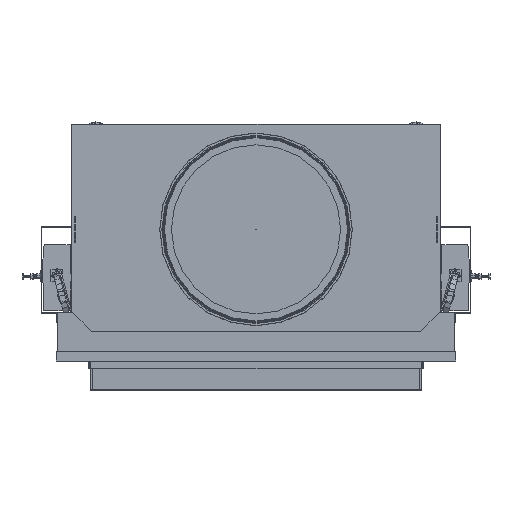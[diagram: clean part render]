
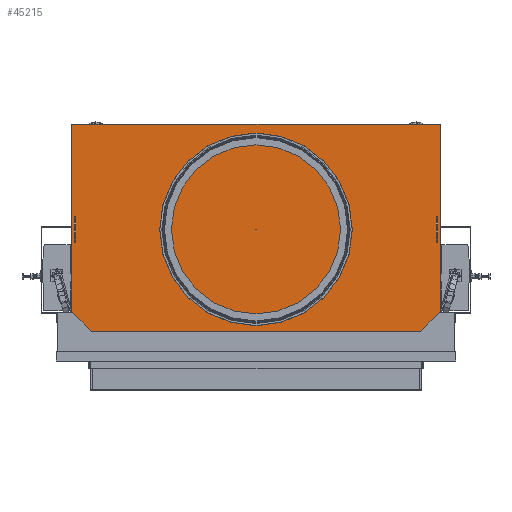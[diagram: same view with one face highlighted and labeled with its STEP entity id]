
A CAD part, top view. The second image highlights one B-rep face of the part: STEP entity #45215.
In plain terms, the highlighted planar face has unit normal (0, 0, 1).
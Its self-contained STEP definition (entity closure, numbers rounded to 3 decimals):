
#45215 = ADVANCED_FACE('',(#45216),#45230,.T.);
#45216 = FACE_BOUND('',#45217,.T.);
#45217 = EDGE_LOOP('',(#45218,#45253,#45281,#45309,#45337,#45365));
#45218 = ORIENTED_EDGE('',*,*,#45219,.T.);
#45219 = EDGE_CURVE('',#45220,#45222,#45224,.T.);
#45220 = VERTEX_POINT('',#45221);
#45221 = CARTESIAN_POINT('',(3633.291,8779.701,
    1110.));
#45222 = VERTEX_POINT('',#45223);
#45223 = CARTESIAN_POINT('',(3633.278,9177.701,
    1110.));
#45224 = SURFACE_CURVE('',#45225,(#45229,#45241),.PCURVE_S1.);
#45225 = LINE('',#45226,#45227);
#45226 = CARTESIAN_POINT('',(3633.291,8779.701,
    1110.));
#45227 = VECTOR('',#45228,1.);
#45228 = DIRECTION('',(0.,1.,0.));
#45229 = PCURVE('',#45230,#45235);
#45230 = PLANE('',#45231);
#45231 = AXIS2_PLACEMENT_3D('',#45232,#45233,#45234);
#45232 = CARTESIAN_POINT('',(3241.79,8962.523,
    1110.));
#45233 = DIRECTION('',(0.,0.,1.));
#45234 = DIRECTION('',(1.,0.,-0.));
#45235 = DEFINITIONAL_REPRESENTATION('',(#45236),#45240);
#45236 = LINE('',#45237,#45238);
#45237 = CARTESIAN_POINT('',(391.501,-182.822));
#45238 = VECTOR('',#45239,1.);
#45239 = DIRECTION('',(0.,1.));
#45240 = ( GEOMETRIC_REPRESENTATION_CONTEXT(2) 
PARAMETRIC_REPRESENTATION_CONTEXT() REPRESENTATION_CONTEXT('2D SPACE',''
  ) );
#45241 = PCURVE('',#45242,#45247);
#45242 = PLANE('',#45243);
#45243 = AXIS2_PLACEMENT_3D('',#45244,#45245,#45246);
#45244 = CARTESIAN_POINT('',(3633.285,8978.701,
    696.));
#45245 = DIRECTION('',(1.,0.,0.));
#45246 = DIRECTION('',(0.,1.,0.));
#45247 = DEFINITIONAL_REPRESENTATION('',(#45248),#45252);
#45248 = LINE('',#45249,#45250);
#45249 = CARTESIAN_POINT('',(-199.,414.));
#45250 = VECTOR('',#45251,1.);
#45251 = DIRECTION('',(1.,0.));
#45252 = ( GEOMETRIC_REPRESENTATION_CONTEXT(2) 
PARAMETRIC_REPRESENTATION_CONTEXT() REPRESENTATION_CONTEXT('2D SPACE',''
  ) );
#45253 = ORIENTED_EDGE('',*,*,#45254,.T.);
#45254 = EDGE_CURVE('',#45222,#45255,#45257,.T.);
#45255 = VERTEX_POINT('',#45256);
#45256 = CARTESIAN_POINT('',(2850.291,9177.701,
    1110.));
#45257 = SURFACE_CURVE('',#45258,(#45262,#45269),.PCURVE_S1.);
#45258 = LINE('',#45259,#45260);
#45259 = CARTESIAN_POINT('',(3633.278,9177.701,
    1110.));
#45260 = VECTOR('',#45261,1.);
#45261 = DIRECTION('',(-1.,0.,0.));
#45262 = PCURVE('',#45230,#45263);
#45263 = DEFINITIONAL_REPRESENTATION('',(#45264),#45268);
#45264 = LINE('',#45265,#45266);
#45265 = CARTESIAN_POINT('',(391.488,215.178));
#45266 = VECTOR('',#45267,1.);
#45267 = DIRECTION('',(-1.,0.));
#45268 = ( GEOMETRIC_REPRESENTATION_CONTEXT(2) 
PARAMETRIC_REPRESENTATION_CONTEXT() REPRESENTATION_CONTEXT('2D SPACE',''
  ) );
#45269 = PCURVE('',#45270,#45275);
#45270 = PLANE('',#45271);
#45271 = AXIS2_PLACEMENT_3D('',#45272,#45273,#45274);
#45272 = CARTESIAN_POINT('',(3241.785,9177.701,
    696.));
#45273 = DIRECTION('',(0.,1.,0.));
#45274 = DIRECTION('',(1.,0.,0.));
#45275 = DEFINITIONAL_REPRESENTATION('',(#45276),#45280);
#45276 = LINE('',#45277,#45278);
#45277 = CARTESIAN_POINT('',(391.494,-414.));
#45278 = VECTOR('',#45279,1.);
#45279 = DIRECTION('',(-1.,-0.));
#45280 = ( GEOMETRIC_REPRESENTATION_CONTEXT(2) 
PARAMETRIC_REPRESENTATION_CONTEXT() REPRESENTATION_CONTEXT('2D SPACE',''
  ) );
#45281 = ORIENTED_EDGE('',*,*,#45282,.T.);
#45282 = EDGE_CURVE('',#45255,#45283,#45285,.T.);
#45283 = VERTEX_POINT('',#45284);
#45284 = CARTESIAN_POINT('',(2850.291,8779.699,
    1110.));
#45285 = SURFACE_CURVE('',#45286,(#45290,#45297),.PCURVE_S1.);
#45286 = LINE('',#45287,#45288);
#45287 = CARTESIAN_POINT('',(2850.291,9177.701,
    1110.));
#45288 = VECTOR('',#45289,1.);
#45289 = DIRECTION('',(0.,-1.,0.));
#45290 = PCURVE('',#45230,#45291);
#45291 = DEFINITIONAL_REPRESENTATION('',(#45292),#45296);
#45292 = LINE('',#45293,#45294);
#45293 = CARTESIAN_POINT('',(-391.499,215.178));
#45294 = VECTOR('',#45295,1.);
#45295 = DIRECTION('',(0.,-1.));
#45296 = ( GEOMETRIC_REPRESENTATION_CONTEXT(2) 
PARAMETRIC_REPRESENTATION_CONTEXT() REPRESENTATION_CONTEXT('2D SPACE',''
  ) );
#45297 = PCURVE('',#45298,#45303);
#45298 = PLANE('',#45299);
#45299 = AXIS2_PLACEMENT_3D('',#45300,#45301,#45302);
#45300 = CARTESIAN_POINT('',(2850.291,8978.7,
    696.));
#45301 = DIRECTION('',(1.,0.,0.));
#45302 = DIRECTION('',(-0.,0.,1.));
#45303 = DEFINITIONAL_REPRESENTATION('',(#45304),#45308);
#45304 = LINE('',#45305,#45306);
#45305 = CARTESIAN_POINT('',(414.,-199.001));
#45306 = VECTOR('',#45307,1.);
#45307 = DIRECTION('',(0.,1.));
#45308 = ( GEOMETRIC_REPRESENTATION_CONTEXT(2) 
PARAMETRIC_REPRESENTATION_CONTEXT() REPRESENTATION_CONTEXT('2D SPACE',''
  ) );
#45309 = ORIENTED_EDGE('',*,*,#45310,.T.);
#45310 = EDGE_CURVE('',#45283,#45311,#45313,.T.);
#45311 = VERTEX_POINT('',#45312);
#45312 = CARTESIAN_POINT('',(2892.344,8737.701,
    1110.));
#45313 = SURFACE_CURVE('',#45314,(#45318,#45325),.PCURVE_S1.);
#45314 = LINE('',#45315,#45316);
#45315 = CARTESIAN_POINT('',(2850.291,8779.699,
    1110.));
#45316 = VECTOR('',#45317,1.);
#45317 = DIRECTION('',(0.708,-0.707,0.));
#45318 = PCURVE('',#45230,#45319);
#45319 = DEFINITIONAL_REPRESENTATION('',(#45320),#45324);
#45320 = LINE('',#45321,#45322);
#45321 = CARTESIAN_POINT('',(-391.499,-182.824));
#45322 = VECTOR('',#45323,1.);
#45323 = DIRECTION('',(0.708,-0.707));
#45324 = ( GEOMETRIC_REPRESENTATION_CONTEXT(2) 
PARAMETRIC_REPRESENTATION_CONTEXT() REPRESENTATION_CONTEXT('2D SPACE',''
  ) );
#45325 = PCURVE('',#45326,#45331);
#45326 = PLANE('',#45327);
#45327 = AXIS2_PLACEMENT_3D('',#45328,#45329,#45330);
#45328 = CARTESIAN_POINT('',(2871.317,8758.7,
    696.));
#45329 = DIRECTION('',(-0.707,-0.708,-0.));
#45330 = DIRECTION('',(-0.708,0.707,0.));
#45331 = DEFINITIONAL_REPRESENTATION('',(#45332),#45336);
#45332 = LINE('',#45333,#45334);
#45333 = CARTESIAN_POINT('',(29.716,-414.));
#45334 = VECTOR('',#45335,1.);
#45335 = DIRECTION('',(-1.,0.));
#45336 = ( GEOMETRIC_REPRESENTATION_CONTEXT(2) 
PARAMETRIC_REPRESENTATION_CONTEXT() REPRESENTATION_CONTEXT('2D SPACE',''
  ) );
#45337 = ORIENTED_EDGE('',*,*,#45338,.T.);
#45338 = EDGE_CURVE('',#45311,#45339,#45341,.T.);
#45339 = VERTEX_POINT('',#45340);
#45340 = CARTESIAN_POINT('',(3591.291,8737.701,
    1110.));
#45341 = SURFACE_CURVE('',#45342,(#45346,#45353),.PCURVE_S1.);
#45342 = LINE('',#45343,#45344);
#45343 = CARTESIAN_POINT('',(2892.344,8737.701,
    1110.));
#45344 = VECTOR('',#45345,1.);
#45345 = DIRECTION('',(1.,0.,0.));
#45346 = PCURVE('',#45230,#45347);
#45347 = DEFINITIONAL_REPRESENTATION('',(#45348),#45352);
#45348 = LINE('',#45349,#45350);
#45349 = CARTESIAN_POINT('',(-349.447,-224.822));
#45350 = VECTOR('',#45351,1.);
#45351 = DIRECTION('',(1.,0.));
#45352 = ( GEOMETRIC_REPRESENTATION_CONTEXT(2) 
PARAMETRIC_REPRESENTATION_CONTEXT() REPRESENTATION_CONTEXT('2D SPACE',''
  ) );
#45353 = PCURVE('',#45354,#45359);
#45354 = PLANE('',#45355);
#45355 = AXIS2_PLACEMENT_3D('',#45356,#45357,#45358);
#45356 = CARTESIAN_POINT('',(3241.817,8737.701,
    696.));
#45357 = DIRECTION('',(0.,1.,0.));
#45358 = DIRECTION('',(0.,-0.,1.));
#45359 = DEFINITIONAL_REPRESENTATION('',(#45360),#45364);
#45360 = LINE('',#45361,#45362);
#45361 = CARTESIAN_POINT('',(414.,-349.474));
#45362 = VECTOR('',#45363,1.);
#45363 = DIRECTION('',(0.,1.));
#45364 = ( GEOMETRIC_REPRESENTATION_CONTEXT(2) 
PARAMETRIC_REPRESENTATION_CONTEXT() REPRESENTATION_CONTEXT('2D SPACE',''
  ) );
#45365 = ORIENTED_EDGE('',*,*,#45366,.T.);
#45366 = EDGE_CURVE('',#45339,#45220,#45367,.T.);
#45367 = SURFACE_CURVE('',#45368,(#45372,#45379),.PCURVE_S1.);
#45368 = LINE('',#45369,#45370);
#45369 = CARTESIAN_POINT('',(3591.291,8737.701,
    1110.));
#45370 = VECTOR('',#45371,1.);
#45371 = DIRECTION('',(0.707,0.707,0.));
#45372 = PCURVE('',#45230,#45373);
#45373 = DEFINITIONAL_REPRESENTATION('',(#45374),#45378);
#45374 = LINE('',#45375,#45376);
#45375 = CARTESIAN_POINT('',(349.501,-224.822));
#45376 = VECTOR('',#45377,1.);
#45377 = DIRECTION('',(0.707,0.707));
#45378 = ( GEOMETRIC_REPRESENTATION_CONTEXT(2) 
PARAMETRIC_REPRESENTATION_CONTEXT() REPRESENTATION_CONTEXT('2D SPACE',''
  ) );
#45379 = PCURVE('',#45380,#45385);
#45380 = PLANE('',#45381);
#45381 = AXIS2_PLACEMENT_3D('',#45382,#45383,#45384);
#45382 = CARTESIAN_POINT('',(3612.291,8758.701,
    696.));
#45383 = DIRECTION('',(0.707,-0.707,-0.));
#45384 = DIRECTION('',(-0.707,-0.707,0.));
#45385 = DEFINITIONAL_REPRESENTATION('',(#45386),#45390);
#45386 = LINE('',#45387,#45388);
#45387 = CARTESIAN_POINT('',(29.698,-414.));
#45388 = VECTOR('',#45389,1.);
#45389 = DIRECTION('',(-1.,0.));
#45390 = ( GEOMETRIC_REPRESENTATION_CONTEXT(2) 
PARAMETRIC_REPRESENTATION_CONTEXT() REPRESENTATION_CONTEXT('2D SPACE',''
  ) );
